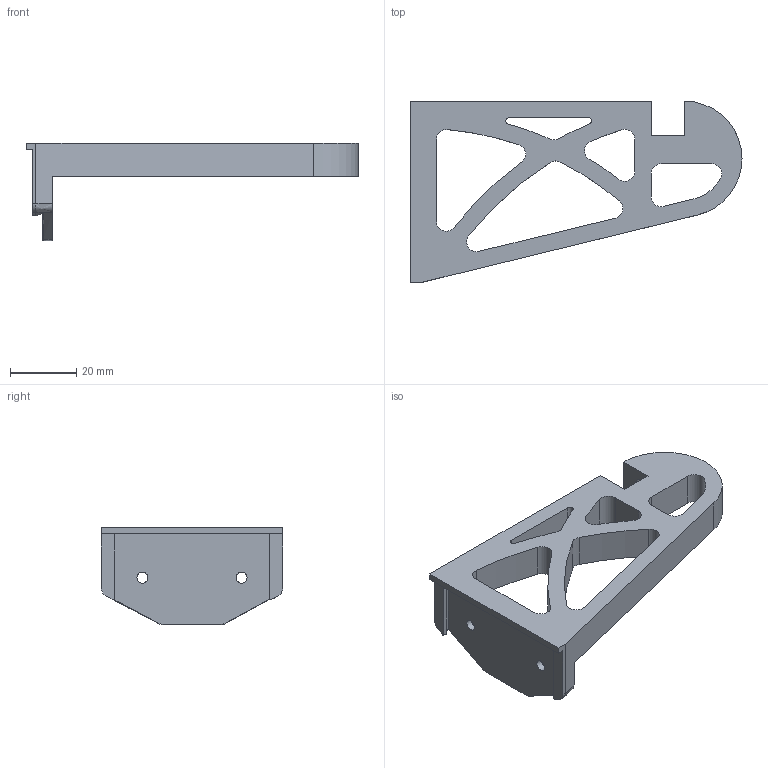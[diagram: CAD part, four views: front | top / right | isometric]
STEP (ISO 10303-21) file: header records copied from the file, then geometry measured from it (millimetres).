
FILE_DESCRIPTION(/* description */ ('STEP AP242','CAx-IF Rec.Pracs.---Representation and Presentation of Product Manufacturing Information (PMI)---4.0---2014-10-13','CAx-IF Rec.Pracs.---3D Tessellated Geometry---0.4---2014-09-14','2;1'),/* implementation_level */ '2;1');
FILE_NAME(/* name */ '62b753891a41712550c662c9',/* time_stamp */ '2022-06-25T18:27:22+00:00',/* author */ (''),/* organization */ (''),/* preprocessor_version */ 'ST-DEVELOPER v18.102',/* originating_system */ ' ',/* authorisation */ ' ');
FILE_SCHEMA (('AP242_MANAGED_MODEL_BASED_3D_ENGINEERING_MIM_LF { 1 0 10303 442 1 1 4 }'));
Length unit declared in the file: metre
Products named in the file (1): Arm Fixed Left
Bounding box: 100.5 x 55 x 29.5 mm (x, y, z)
Volume: 25174.6 mm3; surface area: 14016.8 mm2
Topology: 1 solids, 1 shells, 81 faces, 226 edges, 150 vertices
Faces by surface type: plane 36, cylinder 35, bspline 6, cone 4
Full cylindrical faces by diameter (mm): 2.7 x1, 3.3 x2, 3.5 x1, 6 x1
Entity records: 2672 total; most frequent: CARTESIAN_POINT 579, ORIENTED_EDGE 428, DIRECTION 420, EDGE_CURVE 214, AXIS2_PLACEMENT_3D 151, VERTEX_POINT 146, LINE 118, VECTOR 118
